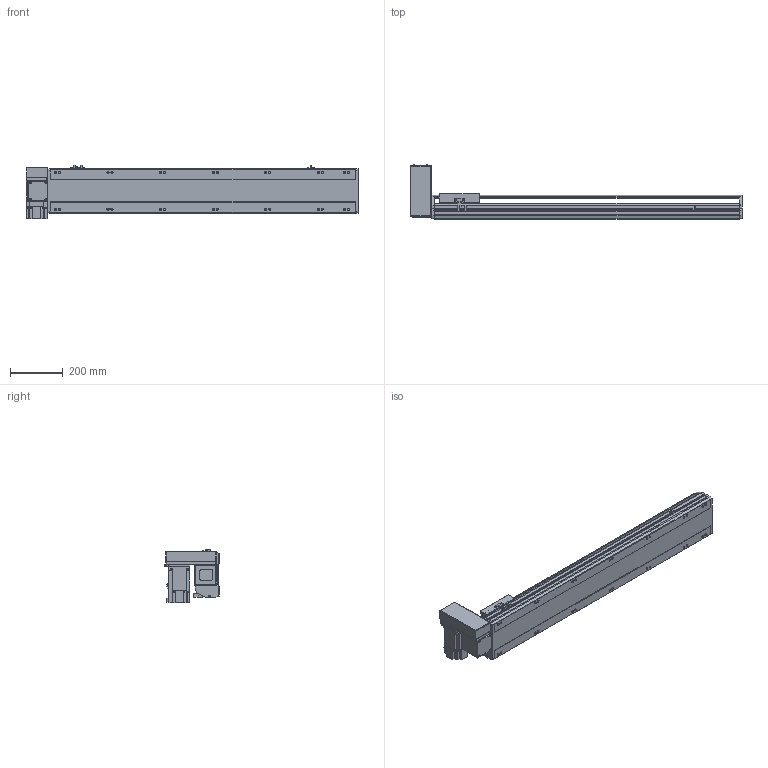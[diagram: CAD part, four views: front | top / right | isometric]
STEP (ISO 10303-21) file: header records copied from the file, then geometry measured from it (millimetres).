
FILE_DESCRIPTION( ( 'STEP AP214' ), '1' );
FILE_NAME( 'x:/temp/worker_5/temp/exporttempdir_3988_117_llfEN/format_0/PBS170-P40-S900-RU-T75-C1-N(0).stp', '2022-06-08T05:56:47', ( 'License CC BY-ND 4.0' ), ( 'CADENAS' ), ' ', 'PARTsolutions', ' ' );
FILE_SCHEMA( ( 'AUTOMOTIVE_DESIGN { 1 0 10303 214 1 1 1 1 }' ) );
Length unit declared in the file: millimetre
Products named in the file (7): PBS170-P40-S900-RU-T75-C1-N(0); _PBS170-S900()_body; _PBS170T-RU_motors; _T75-p1; _PBS170_sliser; _PBS170_plant; _PBS170_sensor
Assembly tree (8 placements, depth 2):
  PBS170-P40-S900-RU-T75-C1-N(0)
    _PBS170-S900()_body
    _PBS170T-RU_motors
    _T75-p1
    _PBS170_sliser
    _PBS170_plant
    _PBS170_sensor  x3
Bounding box: 1263 x 206 x 205.3 mm (x, y, z)
Volume: 10276813.7 mm3; surface area: 1354627.6 mm2
Topology: 8 solids, 8 shells, 1066 faces, 2835 edges, 1848 vertices
Faces by surface type: plane 681, cylinder 331, cone 44, sphere 8, torus 2
Full cylindrical faces by diameter (mm): 3.242 x4, 4 x2, 4.4 x4, 4.5 x6, 4.917 x4, 6 x9, 6.647 x22, 7 x2, 7.5 x4, 8 x8, 8.5 x14, 10 x4, 10.5 x14, 11 x2, 30 x2, 40 x1, 70 x1
Entity records: 39098 total; most frequent: CARTESIAN_POINT 6053, DIRECTION 5230, ORIENTED_EDGE 4968, EDGE_CURVE 2484, AXIS2_PLACEMENT_3D 1807, VERTEX_POINT 1706, LINE 1616, VECTOR 1616
